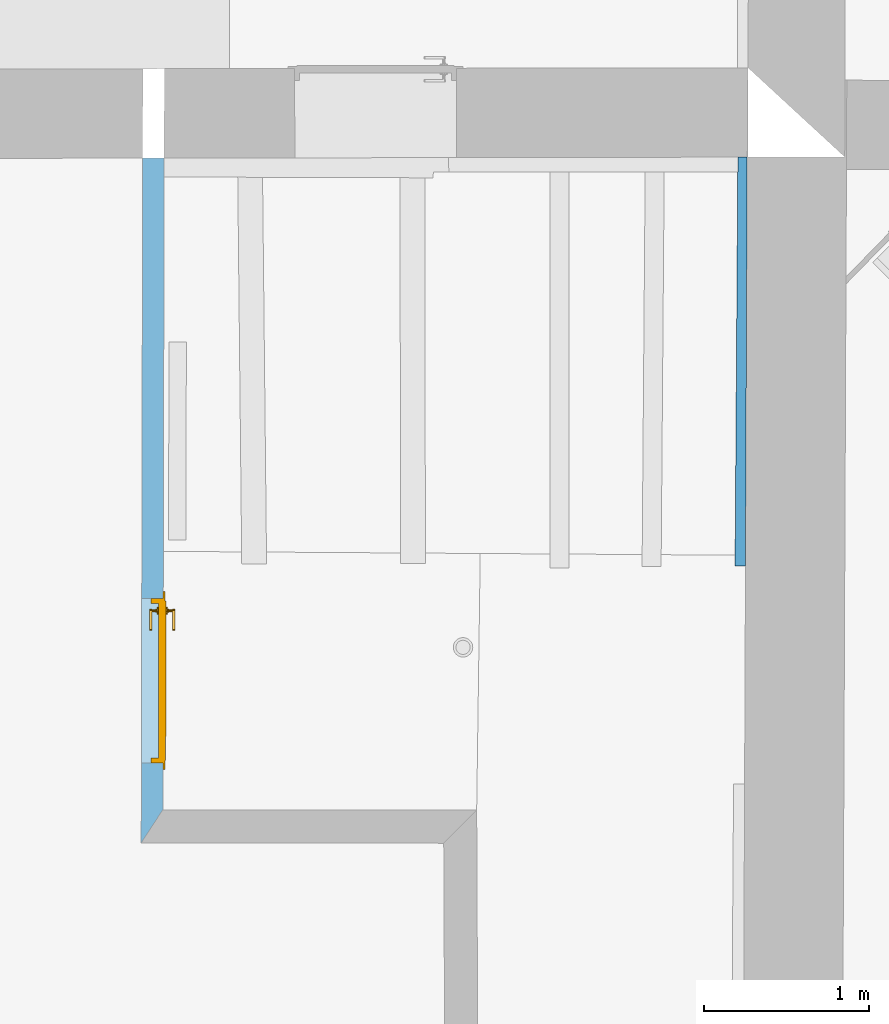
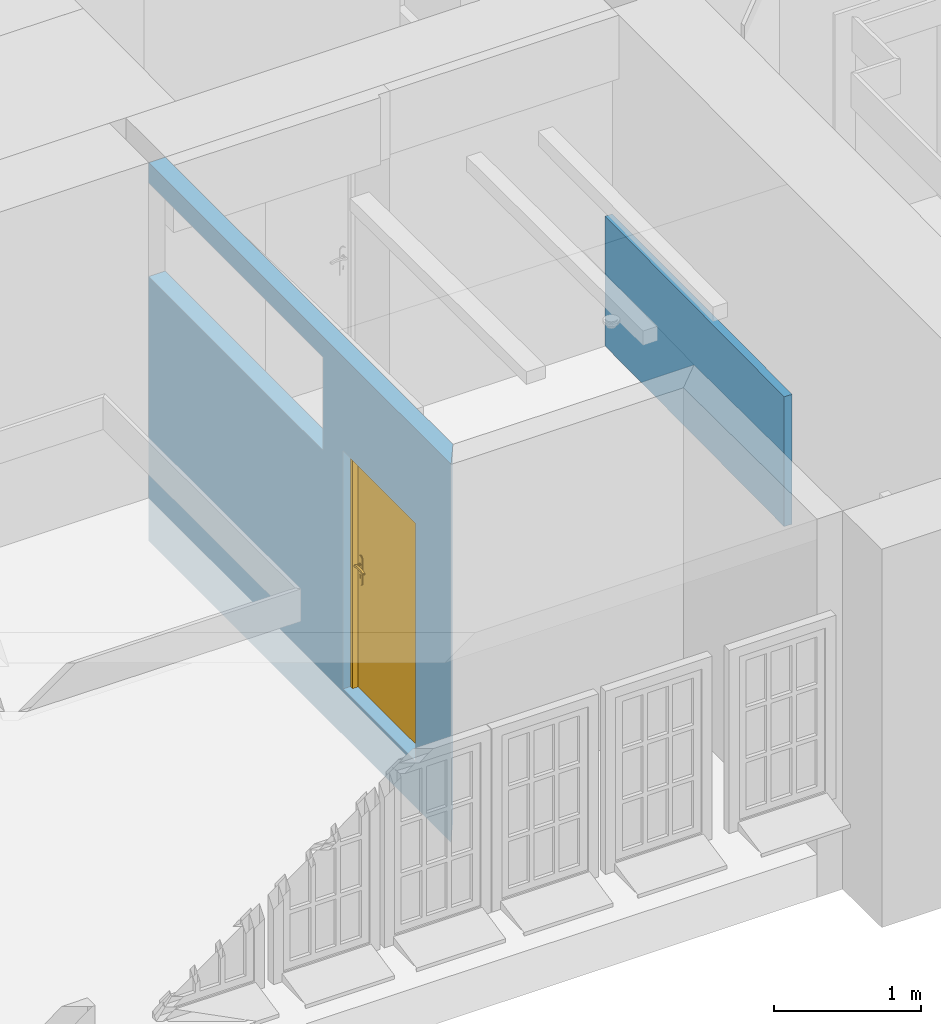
# One storey, part 86 of 196: 1 door, 1 wall, 2 openings, plus 1 element that does not belong to this part.
"""IFC2X3 building model written with IfcOpenShell, lengths in metres."""

from ifc_helpers import new_model, entity, si_unit, converted_unit, derived_unit, money_unit, direction, frame, origin_with_axes, origin_2d_with_axis, place, context, subcontext, project, spatial, polyline, rectangle, outline, extrude, boolean, faceted_brep, material, layer, layer_set, layer_usage, type_object, element, fill, save


model = new_model("IFC2X3")

# Units and contexts
model_context = context("Model", 3, precision=1e-05, world=origin_with_axes(), true_north=direction((0.0, 1.0)))
body_context = subcontext(model_context, "Body", "Model", "MODEL_VIEW")
ifc_project = project(units=[si_unit("LENGTHUNIT", "METRE"), si_unit("AREAUNIT", "SQUARE_METRE"), si_unit("VOLUMEUNIT", "CUBIC_METRE"), converted_unit("PLANEANGLEUNIT", "DEGREE", entity("IfcPlaneAngleMeasure", 0.0174532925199), si_unit("PLANEANGLEUNIT", "RADIAN"), dimensions=[0, 0, 0, 0, 0, 0, 0]), money_unit("EUR"), converted_unit("TIMEUNIT", "Year", entity("IfcTimeMeasure", 31556926.0), si_unit("TIMEUNIT", "SECOND"), dimensions=[0, 0, 1, 0, 0, 0, 0]), si_unit("MASSUNIT", "GRAM", prefix="KILO"), si_unit("THERMODYNAMICTEMPERATUREUNIT", "DEGREE_CELSIUS"), si_unit("LUMINOUSINTENSITYUNIT", "LUMEN"), si_unit("ENERGYUNIT", "JOULE", prefix="MEGA"), derived_unit("THERMALCONDUCTANCEUNIT", [(si_unit("POWERUNIT", "WATT"), 1), (si_unit("LENGTHUNIT", "METRE"), -1), (si_unit("THERMODYNAMICTEMPERATUREUNIT", "KELVIN"), -1)]), derived_unit("SPECIFICHEATCAPACITYUNIT", [(si_unit("ENERGYUNIT", "JOULE"), 1), (si_unit("MASSUNIT", "GRAM", prefix="KILO"), -1), (si_unit("THERMODYNAMICTEMPERATUREUNIT", "KELVIN"), -1)]), derived_unit("MASSDENSITYUNIT", [(si_unit("MASSUNIT", "GRAM", prefix="KILO"), 1), (si_unit("VOLUMEUNIT", "CUBIC_METRE"), -1)])], contexts=[model_context])

# Site, building, storey
site_placement = place(None, origin_with_axes())
site = spatial("IfcSite", under=ifc_project, at=site_placement, Name="Gelände", CompositionType="ELEMENT")
building_placement = place(site_placement, origin_with_axes())
building = spatial("IfcBuilding", under=site, at=building_placement, Name="Gebäude", CompositionType="ELEMENT")
storey_placement = place(building_placement, frame((0.0, 0.0, -3.0), z_axis=(0.0, 0.0, 1.0), x_axis=(1.0, 0.0, 0.0)))
storey = spatial("IfcBuildingStorey", under=building, at=storey_placement, Name="KELLERGESCHOSS", CompositionType="ELEMENT", Elevation=-3.0)

# Wall
ifc_material_1 = material(Name="01_ALLGEMEIN - BAUTEIL")
wall_type_1 = type_object("IfcWallType", Name="01_ALLGEMEIN - BAUTEIL 70", PredefinedType="ELEMENTEDWALL")
wall_1_placement = place(storey_placement, frame((21.8903013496, 13.9592645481, 0.0), z_axis=(0.0, 0.0, 1.0), x_axis=(0.00681172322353, 0.999976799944, 0.0)))
element("IfcWall", 1, at=wall_1_placement, inside=storey, type_object=wall_type_1, material=ifc_material_1, Name="Wand-038", ObjectType="ELEMENTEDWALL", context=body_context, shape_type="CSG", body=[
    boolean("DIFFERENCE", extrude(outline(polyline([(0.0, -0.07), (3.01123978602, -0.07), (3.01123978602, 0.0), (0.0, 0.0), (0.0, -0.07)])), origin_with_axes(), (0.0, 0.0, 1.0), 1.0808445), faceted_brep([(2.47110810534, -0.0566533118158, 1.0808445), (0.0, -0.0630505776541, 1.0808445), (0.0, -0.07, 1.0808445), (3.01123978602, -0.07, 1.0808445), (3.01123978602, 0.0, 1.0808445), (2.47063057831, 0.0, 1.0808445), (2.47110810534, -0.0566533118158, 0.0), (0.0, -0.0630505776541, 0.0), (0.0, -0.07, 0.0), (3.01123978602, -0.07, 0.0), (3.01123978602, 0.0, 0.0), (2.47063057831, 0.0, 0.0)], [[[0, 1, 2, 3, 4, 5]], [[1, 0, 6, 7]], [[1, 7, 8, 2]], [[2, 8, 9, 3]], [[3, 9, 10, 4]], [[11, 5, 4, 10]], [[0, 5, 11, 6]], [[6, 11, 10, 9, 8, 7]]])),
])

# Wall, openings, door
ifc_material_2 = material(Name="05_ALLGEMEIN - TRAGENDE BAUTEILE")
ifc_layer = layer(ifc_material_2, 0.13, ventilated="UNKNOWN")
ifc_layer_set = layer_set([ifc_layer], Name="05_ALLGEMEIN - TRAGENDE BAUTEILE 0.13")
ifc_layer_usage = layer_usage(ifc_layer_set, "AXIS2", "NEGATIVE", 0.13)
wall_type_2 = type_object("IfcWallType", Name="05_ALLGEMEIN - TRAGENDE BAUTEILE 130", PredefinedType="ELEMENTEDWALL")
wall_2_placement = place(storey_placement, frame((18.4315065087, 12.4853995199, -0.36), z_axis=(0.0, 0.0, 1.0), x_axis=(0.00209980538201, 0.999997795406, 0.0)))
wall_2 = element("IfcWallStandardCase", 2, at=wall_2_placement, inside=storey, type_object=wall_type_2, material=ifc_layer_usage, Name="Wand-036", ObjectType="ELEMENTEDWALL", context=body_context, shape_type="SweptSolid", body=[
    extrude(outline(polyline([(0.0, 0.0), (3.93884039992, 0.0), (3.93835721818, 0.13), (-0.200101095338, 0.13), (0.0, 0.0)])), origin_with_axes(), (0.0, 0.0, 1.0), 3.15),
])
opening_1_placement = place(wall_2_placement, frame((2.74600881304, 0.0, 2.202371), z_axis=(0.0, 0.0, 1.0), x_axis=(1.0, 0.0, 0.0)))
element("IfcOpeningElement", 3, at=opening_1_placement, cuts=wall_2, Name="Fenster-019", context=body_context, shape_type="SweptSolid", body=[
    extrude(rectangle(XDim=2.38566317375, YDim=0.777629, at=origin_2d_with_axis()), frame((0.0, -0.13, 0.3888145), z_axis=(0.0, 1.0, 0.0), x_axis=(-1.0, 0.0, 0.0)), (0.0, 0.0, 1.0), 0.39),
])
opening_2_placement = place(wall_2_placement, frame((0.780892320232, 0.0, 0.384264), z_axis=(0.0, 0.0, 1.0), x_axis=(1.0, 0.0, 0.0)))
opening_2 = element("IfcOpeningElement", 4, at=opening_2_placement, cuts=wall_2, Name="Tür-022", context=body_context, shape_type="SweptSolid", body=[
    extrude(rectangle(XDim=0.994294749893, YDim=1.98261, at=origin_2d_with_axis()), frame((0.0, -0.13, 0.991305), z_axis=(0.0, 1.0, 0.0), x_axis=(-1.0, 0.0, 0.0)), (0.0, 0.0, 1.0), 0.39),
])
door_style = type_object("IfcDoorStyle", Name="Blockrahmentür 1-Fl 25", ConstructionType="NOTDEFINED", OperationType="SINGLE_SWING_RIGHT", ParameterTakesPrecedence=False, Sizeable=False)
door_placement = place(opening_2_placement, frame((0.467147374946, 0.0, 0.0), z_axis=(0.0, 0.0, 1.0), x_axis=(-1.0, 0.0, 0.0)))
door = element("IfcDoor", 5, at=door_placement, inside=storey, type_object=door_style, Name="Tür-022", ObjectType="NOTDEFINED", OverallHeight=1.98261, OverallWidth=0.994295, context=body_context, shape_type="Brep", body=[
    faceted_brep([(0.964294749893, -0.073, 0.0), (0.964294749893, -0.028, 0.0), (0.964294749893, -0.028, 1.98261), (0.964294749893, -0.073, 1.98261), (0.934294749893, -0.073, 0.0), (0.934294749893, -0.028, 0.0), (0.934294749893, -0.028, 1.95261), (0.582247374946, -0.028, 1.95261), (0.467247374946, -0.028, 1.95261), (0.0, -0.028, 1.95261), (0.0, -0.028, 0.0), (-0.03, -0.028, 0.0), (-0.03, -0.028, 1.98261), (-0.03, -0.073, 1.98261), (-0.03, -0.073, 0.0), (0.0, -0.073, 0.0), (0.0, -0.073, 1.95261), (0.467247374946, -0.073, 1.95261), (0.582247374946, -0.073, 1.95261), (0.934294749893, -0.073, 1.95261)], [[[0, 1, 2, 3]], [[4, 5, 1, 0]], [[1, 5, 6, 7, 8, 9, 10, 11, 12, 2]], [[3, 2, 12, 13]], [[0, 3, 13, 14, 15, 16, 17, 18, 19, 4]], [[19, 6, 5, 4]], [[18, 7, 6, 19]], [[17, 8, 7, 18]], [[16, 9, 8, 17]], [[15, 10, 9, 16]], [[14, 11, 10, 15]], [[13, 12, 11, 14]]]),
    faceted_brep([(0.964294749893, -0.028, 0.0), (0.964294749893, 0.012, 0.0), (0.964294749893, 0.012, 1.98261), (0.964294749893, -0.028, 1.98261), (0.949294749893, -0.028, 0.0), (0.949294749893, 0.012, 0.0), (0.949294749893, 0.012, 1.96761), (0.567247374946, 0.012, 1.96761), (0.482247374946, 0.012, 1.96761), (-0.015, 0.012, 1.96761), (-0.015, 0.012, 0.0), (-0.03, 0.012, 0.0), (-0.03, 0.012, 1.98261), (-0.03, -0.028, 1.98261), (-0.03, -0.028, 0.0), (-0.015, -0.028, 0.0), (-0.015, -0.028, 1.96761), (0.482247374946, -0.028, 1.96761), (0.567247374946, -0.028, 1.96761), (0.949294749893, -0.028, 1.96761)], [[[0, 1, 2, 3]], [[4, 5, 1, 0]], [[1, 5, 6, 7, 8, 9, 10, 11, 12, 2]], [[3, 2, 12, 13]], [[0, 3, 13, 14, 15, 16, 17, 18, 19, 4]], [[19, 6, 5, 4]], [[18, 7, 6, 19]], [[17, 8, 7, 18]], [[16, 9, 8, 17]], [[15, 10, 9, 16]], [[14, 11, 10, 15]], [[13, 12, 11, 14]]]),
    faceted_brep([(1.00429474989, 0.0, 0.0), (1.00429474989, 0.012, 0.0), (1.00429474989, 0.012, 2.02261), (1.00429474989, 0.0, 2.02261), (0.964294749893, 0.0, 0.0), (0.964294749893, 0.012, 0.0), (0.964294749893, 0.012, 1.98261), (-0.03, 0.012, 1.98261), (-0.03, 0.012, 0.0), (-0.07, 0.012, 0.0), (-0.07, 0.012, 2.02261), (-0.07, 0.0, 2.02261), (-0.07, 0.0, 0.0), (-0.03, 0.0, 0.0), (-0.03, 0.0, 1.98261), (0.964294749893, 0.0, 1.98261)], [[[0, 1, 2, 3]], [[4, 5, 1, 0]], [[1, 5, 6, 7, 8, 9, 10, 2]], [[3, 2, 10, 11]], [[0, 3, 11, 12, 13, 14, 15, 4]], [[15, 6, 5, 4]], [[14, 7, 6, 15]], [[13, 8, 7, 14]], [[12, 9, 8, 13]], [[11, 10, 9, 12]]]),
    faceted_brep([(0.949294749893, 0.017, 0.0), (-0.015, 0.017, 0.0), (-0.015, 0.017, 1.96761), (0.949294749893, 0.017, 1.96761), (0.949294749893, -0.028, 0.0), (-0.015, -0.028, 0.0), (-0.015, -0.028, 1.96761), (0.949294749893, -0.028, 1.96761)], [[[0, 1, 2, 3]], [[1, 0, 4, 5]], [[2, 1, 5, 6]], [[3, 2, 6, 7]], [[0, 3, 7, 4]], [[5, 4, 7, 6]]]),
    faceted_brep([(0.0402977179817, -0.068, 1.05647213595), (0.045, -0.068, 1.058), (0.045, -0.048, 1.058), (0.0402977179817, -0.048, 1.05647213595), (0.0373915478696, -0.068, 1.05247213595), (0.0373915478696, -0.068, 1.04752786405), (0.0402977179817, -0.068, 1.04352786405), (0.045, -0.068, 1.042), (0.0497022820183, -0.068, 1.04352786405), (0.0526084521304, -0.068, 1.04752786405), (0.0526084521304, -0.068, 1.05247213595), (0.0497022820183, -0.068, 1.05647213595), (0.0497022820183, -0.048, 1.05647213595), (0.045, -0.046, 1.06), (0.0391221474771, -0.046, 1.05809016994), (0.0373915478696, -0.048, 1.05247213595), (0.0373915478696, -0.048, 1.04752786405), (0.0402977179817, -0.048, 1.04352786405), (0.045, -0.048, 1.042), (0.0497022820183, -0.048, 1.04352786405), (0.0526084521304, -0.048, 1.04752786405), (0.0526084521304, -0.048, 1.05247213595), (0.0508778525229, -0.046, 1.05809016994), (0.045, -0.038, 1.06), (0.0391221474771, -0.038, 1.05809016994), (0.035489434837, -0.046, 1.05309016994), (0.035489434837, -0.046, 1.04690983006), (0.0391221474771, -0.046, 1.04190983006), (0.045, -0.046, 1.04), (0.0508778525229, -0.046, 1.04190983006), (0.0545105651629, -0.046, 1.04690983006), (0.0545105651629, -0.046, 1.05309016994), (0.0508778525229, -0.038, 1.05809016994), (0.0545105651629, -0.038, 1.05309016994), (0.0545105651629, -0.038, 1.04690983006), (0.0508778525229, -0.038, 1.04190983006), (0.045, -0.038, 1.04), (0.0391221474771, -0.038, 1.04190983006), (0.035489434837, -0.038, 1.04690983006), (0.035489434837, -0.038, 1.05309016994)], [[[0, 1, 2, 3]], [[1, 0, 4, 5, 6, 7, 8, 9, 10, 11]], [[1, 11, 12, 2]], [[3, 2, 13, 14]], [[4, 0, 3, 15]], [[5, 4, 15, 16]], [[6, 5, 16, 17]], [[7, 6, 17, 18]], [[8, 7, 18, 19]], [[9, 8, 19, 20]], [[10, 9, 20, 21]], [[11, 10, 21, 12]], [[2, 12, 22, 13]], [[14, 13, 23, 24]], [[15, 3, 14, 25]], [[16, 15, 25, 26]], [[17, 16, 26, 27]], [[18, 17, 27, 28]], [[19, 18, 28, 29]], [[20, 19, 29, 30]], [[21, 20, 30, 31]], [[12, 21, 31, 22]], [[13, 22, 32, 23]], [[23, 32, 33, 34, 35, 36, 37, 38, 39, 24]], [[25, 14, 24, 39]], [[26, 25, 39, 38]], [[27, 26, 38, 37]], [[28, 27, 37, 36]], [[29, 28, 36, 35]], [[30, 29, 35, 34]], [[31, 30, 34, 33]], [[22, 31, 33, 32]]]),
    faceted_brep([(0.0571883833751, -0.038, 1.11759695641), (0.0494435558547, -0.038, 1.12195567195), (0.0405564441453, -0.038, 1.12195567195), (0.0328116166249, -0.038, 1.11759695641), (0.0282, -0.038, 1.11), (0.0225, -0.038, 1.11), (0.0225, -0.038, 0.89), (0.0282, -0.038, 0.89), (0.0328116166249, -0.038, 0.882403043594), (0.0405564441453, -0.038, 0.878044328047), (0.0494435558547, -0.038, 0.878044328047), (0.0571883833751, -0.038, 0.882403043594), (0.0618, -0.038, 0.89), (0.0675, -0.038, 0.89), (0.0675, -0.038, 1.11), (0.0618, -0.038, 1.11), (0.045, -0.038, 0.967425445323), (0.050375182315, -0.038, 0.965143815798), (0.0524678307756, -0.038, 0.959692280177), (0.05, -0.038, 0.9544), (0.05, -0.038, 0.9375), (0.0485355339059, -0.038, 0.933964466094), (0.045, -0.038, 0.9325), (0.0414644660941, -0.038, 0.933964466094), (0.04, -0.038, 0.9375), (0.04, -0.038, 0.9544), (0.0375321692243, -0.038, 0.959692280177), (0.039624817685, -0.038, 0.965143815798), (0.0571883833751, -0.028, 1.11759695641), (0.0494435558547, -0.028, 1.12195567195), (0.0405564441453, -0.028, 1.12195567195), (0.0328116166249, -0.028, 1.11759695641), (0.0282, -0.028, 1.11), (0.0225, -0.028, 1.11), (0.0225, -0.028, 0.89), (0.0282, -0.028, 0.89), (0.0328116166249, -0.028, 0.882403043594), (0.0405564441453, -0.028, 0.878044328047), (0.0494435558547, -0.028, 0.878044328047), (0.0571883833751, -0.028, 0.882403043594), (0.0618, -0.028, 0.89), (0.0675, -0.028, 0.89), (0.0675, -0.028, 1.11), (0.0618, -0.028, 1.11), (0.045, -0.028, 0.967425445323), (0.050375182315, -0.028, 0.965143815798), (0.0524678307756, -0.028, 0.959692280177), (0.05, -0.028, 0.9544), (0.05, -0.028, 0.9375), (0.0485355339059, -0.028, 0.933964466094), (0.045, -0.028, 0.9325), (0.0414644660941, -0.028, 0.933964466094), (0.04, -0.028, 0.9375), (0.04, -0.028, 0.9544), (0.0375321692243, -0.028, 0.959692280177), (0.039624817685, -0.028, 0.965143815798)], [[[0, 1, 2, 3, 4, 5, 6, 7, 8, 9, 10, 11, 12, 13, 14, 15], [16, 17, 18, 19, 20, 21, 22, 23, 24, 25, 26, 27]], [[1, 0, 28, 29]], [[2, 1, 29, 30]], [[3, 2, 30, 31]], [[4, 3, 31, 32]], [[5, 4, 32, 33]], [[6, 5, 33, 34]], [[7, 6, 34, 35]], [[8, 7, 35, 36]], [[9, 8, 36, 37]], [[10, 9, 37, 38]], [[11, 10, 38, 39]], [[12, 11, 39, 40]], [[13, 12, 40, 41]], [[14, 13, 41, 42]], [[15, 14, 42, 43]], [[0, 15, 43, 28]], [[17, 16, 44, 45]], [[18, 17, 45, 46]], [[19, 18, 46, 47]], [[19, 47, 48, 20]], [[20, 48, 49, 21]], [[21, 49, 50, 22]], [[22, 50, 51, 23]], [[23, 51, 52, 24]], [[53, 25, 24, 52]], [[26, 25, 53, 54]], [[27, 26, 54, 55]], [[16, 27, 55, 44]], [[40, 39, 38, 37, 36, 35, 34, 33, 32, 31, 30, 29, 28, 43, 42, 41], [54, 53, 52, 51, 50, 49, 48, 47, 46, 45, 44, 55]]]),
    faceted_brep([(0.159253, -0.068, 1.057158), (0.159253, -0.083, 1.057158), (0.159254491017, -0.083, 1.05719388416), (0.159254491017, -0.068, 1.05719388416), (0.132225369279, -0.068, 1.06432652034), (0.132225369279, -0.083, 1.06432652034), (0.104397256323, -0.083, 1.06706086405), (0.0764912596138, -0.083, 1.06529002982), (0.049232, -0.083, 1.05906), (0.0428294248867, -0.083, 1.05976125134), (0.0373273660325, -0.083, 1.05641280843), (0.0350084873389, -0.083, 1.05040385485), (0.0368348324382, -0.083, 1.04422735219), (0.0420486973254, -0.083, 1.04044577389), (0.0484869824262, -0.083, 1.04062800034), (0.0534786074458, -0.083, 1.04469843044), (0.053458, -0.083, 1.044666), (0.0787467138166, -0.083, 1.05019878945), (0.104589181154, -0.083, 1.05171460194), (0.130351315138, -0.083, 1.04917624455), (0.155401, -0.083, 1.042646), (0.160944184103, -0.083, 1.04356849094), (0.16430572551, -0.083, 1.04807159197), (0.163614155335, -0.083, 1.05364829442), (0.163614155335, -0.068, 1.05364829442), (0.16430572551, -0.068, 1.04807159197), (0.160944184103, -0.068, 1.04356849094), (0.155401, -0.068, 1.042646), (0.130351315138, -0.068, 1.04917624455), (0.104589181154, -0.068, 1.05171460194), (0.0787467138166, -0.068, 1.05019878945), (0.053458, -0.068, 1.044666), (0.0534786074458, -0.068, 1.04469843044), (0.0484869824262, -0.068, 1.04062800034), (0.0420486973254, -0.068, 1.04044577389), (0.0368348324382, -0.068, 1.04422735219), (0.0350084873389, -0.068, 1.05040385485), (0.0373273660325, -0.068, 1.05641280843), (0.0428294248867, -0.068, 1.05976125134), (0.049232, -0.068, 1.05906), (0.0764912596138, -0.068, 1.06529002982), (0.104397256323, -0.068, 1.06706086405)], [[[0, 1, 2, 3]], [[4, 5, 1, 0]], [[1, 5, 6, 7, 8, 9, 10, 11, 12, 13, 14, 15, 16, 17, 18, 19, 20, 21, 22, 23, 2]], [[3, 2, 23, 24]], [[0, 3, 24, 25, 26, 27, 28, 29, 30, 31, 32, 33, 34, 35, 36, 37, 38, 39, 40, 41, 4]], [[41, 6, 5, 4]], [[40, 7, 6, 41]], [[39, 8, 7, 40]], [[38, 9, 8, 39]], [[37, 10, 9, 38]], [[36, 11, 10, 37]], [[35, 12, 11, 36]], [[34, 13, 12, 35]], [[33, 14, 13, 34]], [[32, 15, 14, 33]], [[31, 16, 15, 32]], [[30, 17, 16, 31]], [[29, 18, 17, 30]], [[28, 19, 18, 29]], [[27, 20, 19, 28]], [[26, 21, 20, 27]], [[25, 22, 21, 26]], [[24, 23, 22, 25]]]),
    faceted_brep([(0.0402977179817, 0.057, 1.05647213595), (0.0402977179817, 0.037, 1.05647213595), (0.045, 0.037, 1.058), (0.045, 0.057, 1.058), (0.0373915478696, 0.057, 1.05247213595), (0.0373915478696, 0.037, 1.05247213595), (0.0391221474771, 0.035, 1.05809016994), (0.045, 0.035, 1.06), (0.0497022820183, 0.037, 1.05647213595), (0.0497022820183, 0.057, 1.05647213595), (0.0526084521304, 0.057, 1.05247213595), (0.0526084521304, 0.057, 1.04752786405), (0.0497022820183, 0.057, 1.04352786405), (0.045, 0.057, 1.042), (0.0402977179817, 0.057, 1.04352786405), (0.0373915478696, 0.057, 1.04752786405), (0.0373915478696, 0.037, 1.04752786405), (0.035489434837, 0.035, 1.05309016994), (0.0391221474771, 0.027, 1.05809016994), (0.045, 0.027, 1.06), (0.0508778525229, 0.035, 1.05809016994), (0.0526084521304, 0.037, 1.05247213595), (0.0526084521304, 0.037, 1.04752786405), (0.0497022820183, 0.037, 1.04352786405), (0.045, 0.037, 1.042), (0.0402977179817, 0.037, 1.04352786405), (0.035489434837, 0.035, 1.04690983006), (0.035489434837, 0.027, 1.05309016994), (0.035489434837, 0.027, 1.04690983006), (0.0391221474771, 0.027, 1.04190983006), (0.045, 0.027, 1.04), (0.0508778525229, 0.027, 1.04190983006), (0.054510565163, 0.027, 1.04690983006), (0.054510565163, 0.027, 1.05309016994), (0.0508778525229, 0.027, 1.05809016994), (0.054510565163, 0.035, 1.05309016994), (0.054510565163, 0.035, 1.04690983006), (0.0508778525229, 0.035, 1.04190983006), (0.045, 0.035, 1.04), (0.0391221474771, 0.035, 1.04190983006)], [[[0, 1, 2, 3]], [[4, 5, 1, 0]], [[1, 6, 7, 2]], [[3, 2, 8, 9]], [[3, 9, 10, 11, 12, 13, 14, 15, 4, 0]], [[15, 16, 5, 4]], [[5, 17, 6, 1]], [[6, 18, 19, 7]], [[2, 7, 20, 8]], [[9, 8, 21, 10]], [[10, 21, 22, 11]], [[11, 22, 23, 12]], [[12, 23, 24, 13]], [[13, 24, 25, 14]], [[14, 25, 16, 15]], [[16, 26, 17, 5]], [[17, 27, 18, 6]], [[19, 18, 27, 28, 29, 30, 31, 32, 33, 34]], [[7, 19, 34, 20]], [[8, 20, 35, 21]], [[21, 35, 36, 22]], [[22, 36, 37, 23]], [[23, 37, 38, 24]], [[24, 38, 39, 25]], [[25, 39, 26, 16]], [[26, 28, 27, 17]], [[39, 29, 28, 26]], [[38, 30, 29, 39]], [[37, 31, 30, 38]], [[36, 32, 31, 37]], [[35, 33, 32, 36]], [[20, 34, 33, 35]]]),
    faceted_brep([(0.0571883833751, 0.017, 1.11759695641), (0.0494435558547, 0.017, 1.12195567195), (0.0405564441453, 0.017, 1.12195567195), (0.0328116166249, 0.017, 1.11759695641), (0.0282, 0.017, 1.11), (0.0225, 0.017, 1.11), (0.0225, 0.017, 0.89), (0.0282, 0.017, 0.89), (0.0328116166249, 0.017, 0.882403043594), (0.0405564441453, 0.017, 0.878044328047), (0.0494435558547, 0.017, 0.878044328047), (0.0571883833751, 0.017, 0.882403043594), (0.0618, 0.017, 0.89), (0.0675, 0.017, 0.89), (0.0675, 0.017, 1.11), (0.0618, 0.017, 1.11), (0.045, 0.017, 0.967425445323), (0.0503751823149, 0.017, 0.965143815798), (0.0524678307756, 0.017, 0.959692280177), (0.05, 0.017, 0.9544), (0.05, 0.017, 0.9375), (0.0485355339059, 0.017, 0.933964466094), (0.045, 0.017, 0.9325), (0.0414644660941, 0.017, 0.933964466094), (0.04, 0.017, 0.9375), (0.04, 0.017, 0.9544), (0.0375321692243, 0.017, 0.959692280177), (0.039624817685, 0.017, 0.965143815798), (0.0494435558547, 0.027, 1.12195567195), (0.0571883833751, 0.027, 1.11759695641), (0.0405564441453, 0.027, 1.12195567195), (0.0328116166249, 0.027, 1.11759695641), (0.0282, 0.027, 1.11), (0.0225, 0.027, 1.11), (0.0225, 0.027, 0.89), (0.0282, 0.027, 0.89), (0.0328116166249, 0.027, 0.882403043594), (0.0405564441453, 0.027, 0.878044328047), (0.0494435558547, 0.027, 0.878044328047), (0.0571883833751, 0.027, 0.882403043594), (0.0618, 0.027, 0.89), (0.0675, 0.027, 0.89), (0.0675, 0.027, 1.11), (0.0618, 0.027, 1.11), (0.045, 0.027, 0.967425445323), (0.050375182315, 0.027, 0.965143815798), (0.0524678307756, 0.027, 0.959692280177), (0.05, 0.027, 0.9544), (0.05, 0.027, 0.9375), (0.0485355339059, 0.027, 0.933964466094), (0.045, 0.027, 0.9325), (0.0414644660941, 0.027, 0.933964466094), (0.04, 0.027, 0.9375), (0.04, 0.027, 0.9544), (0.0375321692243, 0.027, 0.959692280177), (0.039624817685, 0.027, 0.965143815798)], [[[0, 1, 2, 3, 4, 5, 6, 7, 8, 9, 10, 11, 12, 13, 14, 15], [16, 17, 18, 19, 20, 21, 22, 23, 24, 25, 26, 27]], [[28, 1, 0, 29]], [[30, 2, 1, 28]], [[31, 3, 2, 30]], [[32, 4, 3, 31]], [[33, 5, 4, 32]], [[34, 6, 5, 33]], [[35, 7, 6, 34]], [[36, 8, 7, 35]], [[37, 9, 8, 36]], [[38, 10, 9, 37]], [[39, 11, 10, 38]], [[40, 12, 11, 39]], [[41, 13, 12, 40]], [[42, 14, 13, 41]], [[43, 15, 14, 42]], [[29, 0, 15, 43]], [[17, 16, 44, 45]], [[18, 17, 45, 46]], [[19, 18, 46, 47]], [[19, 47, 48, 20]], [[20, 48, 49, 21]], [[21, 49, 50, 22]], [[22, 50, 51, 23]], [[23, 51, 52, 24]], [[53, 25, 24, 52]], [[26, 25, 53, 54]], [[27, 26, 54, 55]], [[16, 27, 55, 44]], [[40, 39, 38, 37, 36, 35, 34, 33, 32, 31, 30, 28, 29, 43, 42, 41], [54, 53, 52, 51, 50, 49, 48, 47, 46, 45, 44, 55]]]),
    faceted_brep([(0.159253, 0.057, 1.057158), (0.159254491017, 0.057, 1.05719388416), (0.159254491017, 0.072, 1.05719388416), (0.159253, 0.072, 1.057158), (0.132225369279, 0.057, 1.06432652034), (0.104397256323, 0.057, 1.06706086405), (0.0764912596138, 0.057, 1.06529002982), (0.049232, 0.057, 1.05906), (0.0428294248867, 0.057, 1.05976125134), (0.0373273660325, 0.057, 1.05641280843), (0.0350084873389, 0.057, 1.05040385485), (0.0368348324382, 0.057, 1.04422735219), (0.0420486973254, 0.057, 1.04044577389), (0.0484869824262, 0.057, 1.04062800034), (0.0534786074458, 0.057, 1.04469843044), (0.053458, 0.057, 1.044666), (0.0787467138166, 0.057, 1.05019878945), (0.104589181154, 0.057, 1.05171460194), (0.130351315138, 0.057, 1.04917624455), (0.155401, 0.057, 1.042646), (0.160944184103, 0.057, 1.04356849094), (0.16430572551, 0.057, 1.04807159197), (0.163614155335, 0.057, 1.05364829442), (0.163614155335, 0.072, 1.05364829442), (0.16430572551, 0.072, 1.04807159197), (0.160944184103, 0.072, 1.04356849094), (0.155401, 0.072, 1.042646), (0.130351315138, 0.072, 1.04917624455), (0.104589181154, 0.072, 1.05171460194), (0.0787467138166, 0.072, 1.05019878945), (0.053458, 0.072, 1.044666), (0.0534786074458, 0.072, 1.04469843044), (0.0484869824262, 0.072, 1.04062800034), (0.0420486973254, 0.072, 1.04044577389), (0.0368348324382, 0.072, 1.04422735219), (0.0350084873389, 0.072, 1.05040385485), (0.0373273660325, 0.072, 1.05641280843), (0.0428294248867, 0.072, 1.05976125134), (0.049232, 0.072, 1.05906), (0.0764912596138, 0.072, 1.06529002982), (0.104397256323, 0.072, 1.06706086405), (0.132225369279, 0.072, 1.06432652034)], [[[0, 1, 2, 3]], [[0, 4, 5, 6, 7, 8, 9, 10, 11, 12, 13, 14, 15, 16, 17, 18, 19, 20, 21, 22, 1]], [[1, 22, 23, 2]], [[3, 2, 23, 24, 25, 26, 27, 28, 29, 30, 31, 32, 33, 34, 35, 36, 37, 38, 39, 40, 41]], [[4, 0, 3, 41]], [[5, 4, 41, 40]], [[6, 5, 40, 39]], [[7, 6, 39, 38]], [[8, 7, 38, 37]], [[9, 8, 37, 36]], [[10, 9, 36, 35]], [[11, 10, 35, 34]], [[12, 11, 34, 33]], [[13, 12, 33, 32]], [[14, 13, 32, 31]], [[15, 14, 31, 30]], [[16, 15, 30, 29]], [[17, 16, 29, 28]], [[18, 17, 28, 27]], [[19, 18, 27, 26]], [[20, 19, 26, 25]], [[21, 20, 25, 24]], [[22, 21, 24, 23]]]),
])
fill(opening_2, door)

save(model, "model.ifc")
